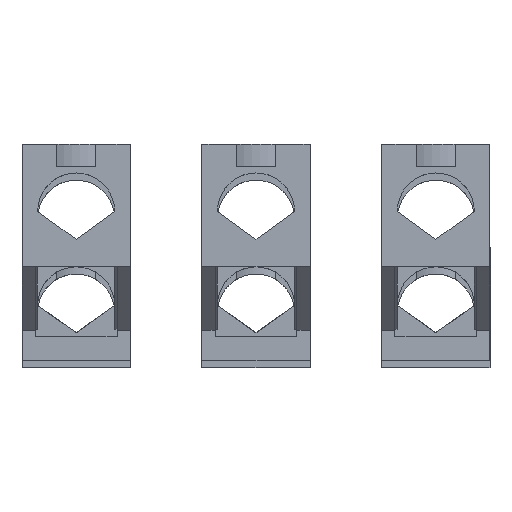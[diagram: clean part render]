
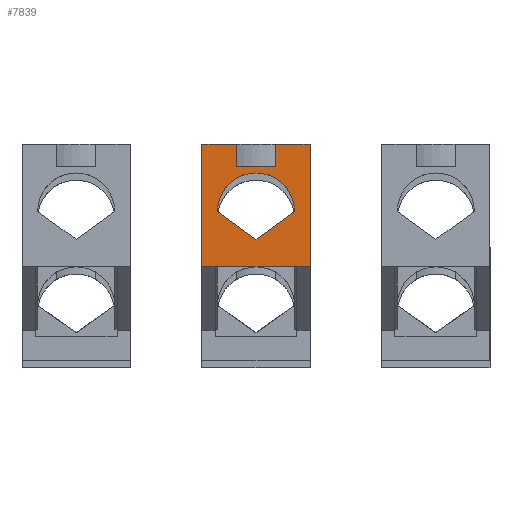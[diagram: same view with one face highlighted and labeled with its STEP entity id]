
A CAD part, front view. The second image highlights one B-rep face of the part: STEP entity #7839.
In plain terms, the highlighted planar face has unit normal (0, -1, 0).
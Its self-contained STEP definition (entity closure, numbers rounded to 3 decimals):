
#5 = CARTESIAN_POINT ( 'NONE',  ( -11.25, -109.4, 68. ) ) ;
#166 = LINE ( 'NONE', #649, #3692 ) ;
#223 = EDGE_CURVE ( 'NONE', #2078, #1329, #5980, .T. ) ;
#649 = CARTESIAN_POINT ( 'NONE',  ( 8., -109.4, 54. ) ) ;
#951 = ORIENTED_EDGE ( 'NONE', *, *, #8164, .T. ) ;
#970 = LINE ( 'NONE', #1432, #1385 ) ;
#1166 = DIRECTION ( 'NONE',  ( -0.81, 0., 0.587 ) ) ;
#1329 = VERTEX_POINT ( 'NONE', #2639 ) ;
#1385 = VECTOR ( 'NONE', #10445, 1000. ) ;
#1432 = CARTESIAN_POINT ( 'NONE',  ( -4., -109.4, 63.3 ) ) ;
#1454 = ORIENTED_EDGE ( 'NONE', *, *, #2355, .T. ) ;
#1486 = FACE_OUTER_BOUND ( 'NONE', #10725, .T. ) ;
#1606 = CARTESIAN_POINT ( 'NONE',  ( 11.25, -109.4, 68. ) ) ;
#1729 = EDGE_CURVE ( 'NONE', #7501, #6208, #8744, .T. ) ;
#1751 = PLANE ( 'NONE',  #9114 ) ;
#1777 = VECTOR ( 'NONE', #9354, 1000. ) ;
#1902 = VERTEX_POINT ( 'NONE', #10120 ) ;
#2078 = VERTEX_POINT ( 'NONE', #10163 ) ;
#2096 = ORIENTED_EDGE ( 'NONE', *, *, #4900, .F. ) ;
#2103 = ORIENTED_EDGE ( 'NONE', *, *, #6061, .T. ) ;
#2314 = CIRCLE ( 'NONE', #9944, 8. ) ;
#2355 = EDGE_CURVE ( 'NONE', #4031, #1902, #166, .T. ) ;
#2446 = CARTESIAN_POINT ( 'NONE',  ( -11.25, -109.4, 68. ) ) ;
#2639 = CARTESIAN_POINT ( 'NONE',  ( -4., -109.4, 63.3 ) ) ;
#2711 = LINE ( 'NONE', #8010, #11205 ) ;
#2781 = CARTESIAN_POINT ( 'NONE',  ( -11.25, -109.4, 68. ) ) ;
#2799 = VERTEX_POINT ( 'NONE', #10605 ) ;
#2825 = LINE ( 'NONE', #8271, #9885 ) ;
#2896 = EDGE_LOOP ( 'NONE', ( #2103, #951, #1454 ) ) ;
#3112 = ORIENTED_EDGE ( 'NONE', *, *, #9822, .F. ) ;
#3259 = DIRECTION ( 'NONE',  ( -1., 0., 0. ) ) ;
#3444 = ORIENTED_EDGE ( 'NONE', *, *, #9045, .F. ) ;
#3585 = VECTOR ( 'NONE', #3259, 1000. ) ;
#3672 = VERTEX_POINT ( 'NONE', #7533 ) ;
#3692 = VECTOR ( 'NONE', #9913, 1000. ) ;
#4031 = VERTEX_POINT ( 'NONE', #11502 ) ;
#4083 = EDGE_CURVE ( 'NONE', #7976, #11575, #4927, .T. ) ;
#4245 = CARTESIAN_POINT ( 'NONE',  ( 11.25, -109.4, 68. ) ) ;
#4318 = DIRECTION ( 'NONE',  ( 0., 0., 1. ) ) ;
#4359 = DIRECTION ( 'NONE',  ( 1., 0., 0. ) ) ;
#4791 = VECTOR ( 'NONE', #9745, 1000. ) ;
#4806 = ORIENTED_EDGE ( 'NONE', *, *, #7032, .T. ) ;
#4900 = EDGE_CURVE ( 'NONE', #2799, #3672, #10963, .T. ) ;
#4927 = LINE ( 'NONE', #8064, #4791 ) ;
#5246 = DIRECTION ( 'NONE',  ( 0., 0., 1. ) ) ;
#5626 = VECTOR ( 'NONE', #5246, 1000. ) ;
#5980 = LINE ( 'NONE', #9610, #3585 ) ;
#6061 = EDGE_CURVE ( 'NONE', #1902, #8096, #2825, .T. ) ;
#6094 = DIRECTION ( 'NONE',  ( -1., 0., 0. ) ) ;
#6208 = VERTEX_POINT ( 'NONE', #4245 ) ;
#6601 = LINE ( 'NONE', #10131, #1777 ) ;
#6612 = LINE ( 'NONE', #1606, #5626 ) ;
#6714 = ORIENTED_EDGE ( 'NONE', *, *, #223, .T. ) ;
#7032 = EDGE_CURVE ( 'NONE', #11575, #6208, #6612, .T. ) ;
#7132 = CARTESIAN_POINT ( 'NONE',  ( -8., -109.4, 54. ) ) ;
#7145 = DIRECTION ( 'NONE',  ( -1., 0., 0. ) ) ;
#7181 = DIRECTION ( 'NONE',  ( 0., 1., 0. ) ) ;
#7501 = VERTEX_POINT ( 'NONE', #11206 ) ;
#7511 = VECTOR ( 'NONE', #4359, 1000. ) ;
#7533 = CARTESIAN_POINT ( 'NONE',  ( -4., -109.4, 68. ) ) ;
#7839 = ADVANCED_FACE ( 'NONE', ( #9259, #1486 ), #1751, .F. ) ;
#7906 = DIRECTION ( 'NONE',  ( 0., 1., 0. ) ) ;
#7958 = ORIENTED_EDGE ( 'NONE', *, *, #4083, .T. ) ;
#7976 = VERTEX_POINT ( 'NONE', #10223 ) ;
#8010 = CARTESIAN_POINT ( 'NONE',  ( -11.25, -109.4, 68. ) ) ;
#8064 = CARTESIAN_POINT ( 'NONE',  ( -11.25, -109.4, 42.5 ) ) ;
#8096 = VERTEX_POINT ( 'NONE', #7132 ) ;
#8164 = EDGE_CURVE ( 'NONE', #8096, #4031, #2314, .T. ) ;
#8241 = DIRECTION ( 'NONE',  ( 1., 0., 0. ) ) ;
#8271 = CARTESIAN_POINT ( 'NONE',  ( -8., -109.4, 54. ) ) ;
#8550 = VECTOR ( 'NONE', #8241, 1000. ) ;
#8744 = LINE ( 'NONE', #2446, #7511 ) ;
#9045 = EDGE_CURVE ( 'NONE', #2078, #7501, #6601, .T. ) ;
#9114 = AXIS2_PLACEMENT_3D ( 'NONE', #5, #7181, #7145 ) ;
#9259 = FACE_BOUND ( 'NONE', #2896, .T. ) ;
#9354 = DIRECTION ( 'NONE',  ( 0., 0., 1. ) ) ;
#9610 = CARTESIAN_POINT ( 'NONE',  ( -4., -109.4, 63.3 ) ) ;
#9745 = DIRECTION ( 'NONE',  ( 1., 0., 0. ) ) ;
#9822 = EDGE_CURVE ( 'NONE', #7976, #2799, #2711, .T. ) ;
#9885 = VECTOR ( 'NONE', #1166, 1000. ) ;
#9913 = DIRECTION ( 'NONE',  ( -0.81, 0., -0.587 ) ) ;
#9944 = AXIS2_PLACEMENT_3D ( 'NONE', #11538, #7906, #6094 ) ;
#10120 = CARTESIAN_POINT ( 'NONE',  ( 0., -109.4, 48.2 ) ) ;
#10131 = CARTESIAN_POINT ( 'NONE',  ( 4., -109.4, 63.3 ) ) ;
#10163 = CARTESIAN_POINT ( 'NONE',  ( 4., -109.4, 63.3 ) ) ;
#10206 = CARTESIAN_POINT ( 'NONE',  ( 11.25, -109.4, 42.5 ) ) ;
#10223 = CARTESIAN_POINT ( 'NONE',  ( -11.25, -109.4, 42.5 ) ) ;
#10445 = DIRECTION ( 'NONE',  ( 0., 0., 1. ) ) ;
#10605 = CARTESIAN_POINT ( 'NONE',  ( -11.25, -109.4, 68. ) ) ;
#10628 = ORIENTED_EDGE ( 'NONE', *, *, #1729, .F. ) ;
#10725 = EDGE_LOOP ( 'NONE', ( #6714, #11163, #2096, #3112, #7958, #4806, #10628, #3444 ) ) ;
#10963 = LINE ( 'NONE', #2781, #8550 ) ;
#11163 = ORIENTED_EDGE ( 'NONE', *, *, #11327, .T. ) ;
#11205 = VECTOR ( 'NONE', #4318, 1000. ) ;
#11206 = CARTESIAN_POINT ( 'NONE',  ( 4., -109.4, 68. ) ) ;
#11327 = EDGE_CURVE ( 'NONE', #1329, #3672, #970, .T. ) ;
#11502 = CARTESIAN_POINT ( 'NONE',  ( 8., -109.4, 54. ) ) ;
#11538 = CARTESIAN_POINT ( 'NONE',  ( 0., -109.4, 54. ) ) ;
#11575 = VERTEX_POINT ( 'NONE', #10206 ) ;
